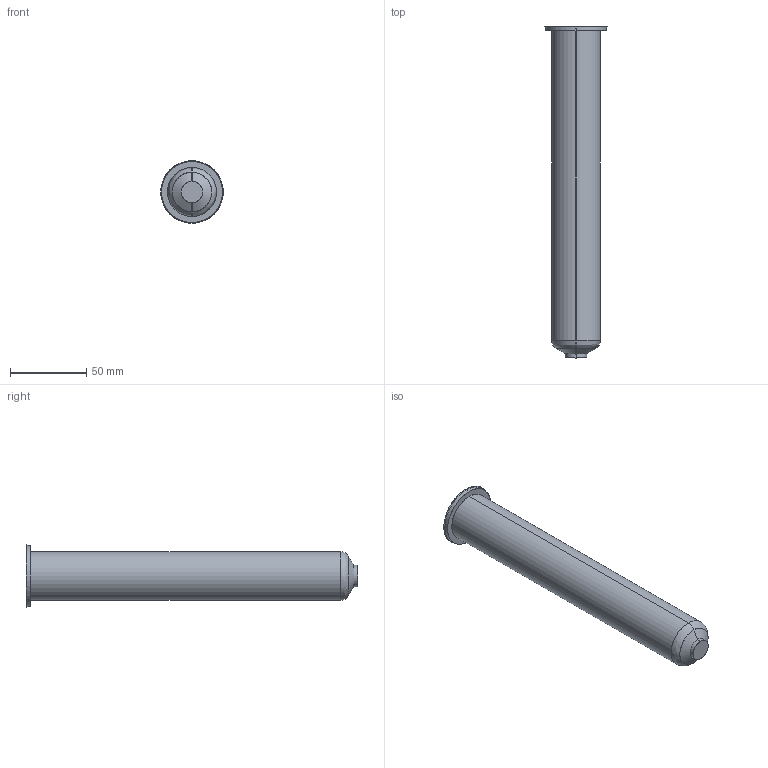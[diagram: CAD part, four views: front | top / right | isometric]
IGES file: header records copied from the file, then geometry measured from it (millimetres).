
Start section: SolidWorks IGES file using analytic representation for surfaces
Global section: file name: C:\Documents and Settings\ws-20\Desktop\TEM\Sede UGBE4505-M-A C-214 L-249 P-0.IGS; native system: SolidWorks 2012; preprocessor: SolidWorks 2012; author: ws-20; date: 120412.155658; units: millimetre
Bounding box: 41 x 217.54 x 41 mm (x, y, z)
Surface area: 23895.7 mm2 (no closed solid volume)
Topology: 0 solids, 0 shells, 15 faces, 272 edges, 272 vertices
Faces by surface type: revolution 10, bspline 5
